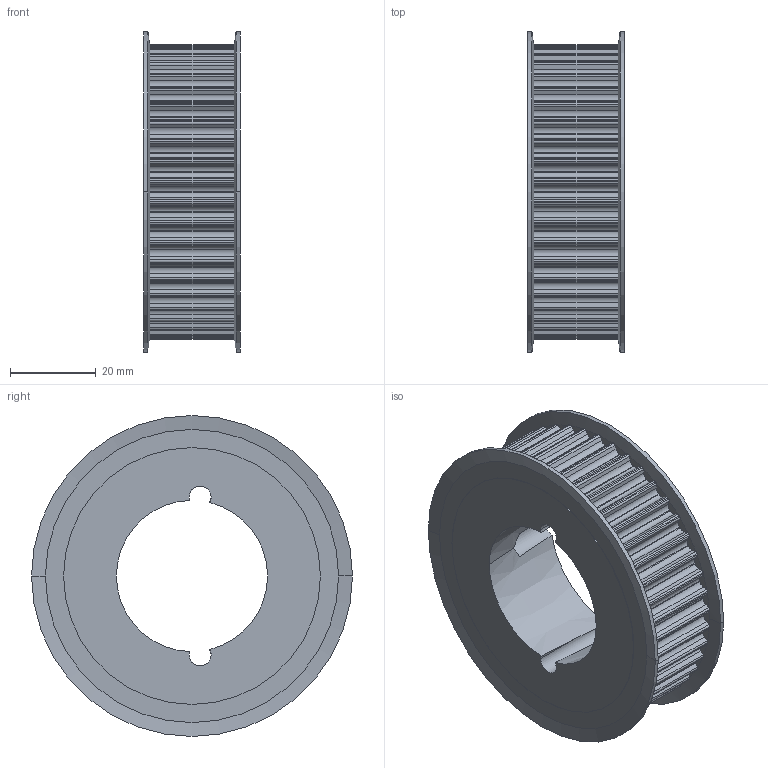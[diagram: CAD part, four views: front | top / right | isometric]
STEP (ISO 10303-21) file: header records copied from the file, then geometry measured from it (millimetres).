
FILE_DESCRIPTION( ( '' ), '1' );
FILE_NAME( 'C:/Users/Stangenbergd/Documents/CAD_Step/1/17277344.stp', '2021-10-19T10:06:16', ( '' ), ( '' ), ' ', ' ', ' ' );
FILE_SCHEMA( ( 'CONFIG_CONTROL_DESIGN' ) );
Length unit declared in the file: millimetre
Products named in the file (1): 1
Bounding box: 22.61 x 75 x 75 mm (x, y, z)
Volume: 53906.8 mm3; surface area: 17833.4 mm2
Topology: 1 solids, 1 shells, 562 faces, 1491 edges, 931 vertices
Faces by surface type: plane 312, cylinder 236, cone 14
Entity records: 17785 total; most frequent: DIRECTION 3439, CARTESIAN_POINT 3115, ORIENTED_EDGE 2978, EDGE_CURVE 1489, AXIS2_PLACEMENT_3D 1399, VERTEX_POINT 931, CIRCLE 836, LINE 641
